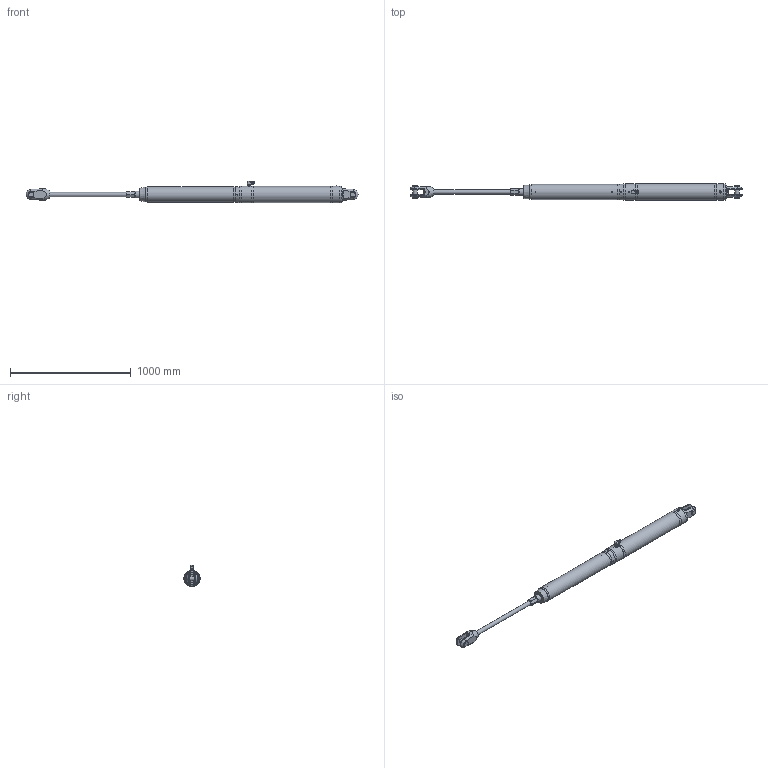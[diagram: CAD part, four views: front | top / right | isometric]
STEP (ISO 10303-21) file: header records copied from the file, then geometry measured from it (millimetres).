
FILE_DESCRIPTION(/* description */ (''),/* implementation_level */ '2;1');
FILE_NAME(/* name */ 'Q:\AA BRAND HYDRAULICS\HYDRAULICS FAMILY DIRECTORY\HYDRAULICS\CYLINDERS\MECHANICAL LOCK RAMS\ALUMINIUM - STAINLESS SINGLE ACTING (-0012 To -0150)\MSA-0091-S0625-NP-71\MSA-0091-S0625-NP-71 (Open).stp',/* time_stamp */ '2018-04-25T17:15:00+01:00',/* author */ ('Lorena'),/* organization */ (''),/* preprocessor_version */ 'ST-DEVELOPER v17',/* originating_system */ 'Autodesk Inventor 2018',/* authorisation */ '');
FILE_SCHEMA (('AUTOMOTIVE_DESIGN { 1 0 10303 214 3 1 1 }'));
Length unit declared in the file: millimetre
Products named in the file (1): MSA-0091-S0625-NP-71 (Open)
Bounding box: 2755.08 x 136.4 x 178.3 mm (x, y, z)
Volume: 24489217.5 mm3; surface area: 946515.7 mm2
Topology: 2 solids, 4 shells, 495 faces, 1298 edges, 848 vertices
Faces by surface type: plane 281, cone 123, cylinder 77, torus 6, sphere 4, bspline 4
Full cylindrical faces by diameter (mm): 4 x1, 4.2 x4, 5 x2, 7 x1, 8 x4, 9 x1, 9.9 x1, 10 x2, 11.1 x1, 18.9 x1, 19 x3, 19.11 x1, 19.9 x1, 20 x3, 20.9 x2, 22 x2, 27.8 x3, 30 x1, 34.25 x1, 34.93 x2, 43.663 x2, 55 x2, 56 x2, 59 x1, 125 x1, 133.4 x1, 136.4 x4
Entity records: 17008 total; most frequent: CARTESIAN_POINT 4416, ORIENTED_EDGE 2580, DIRECTION 2514, EDGE_CURVE 1290, AXIS2_PLACEMENT_3D 966, VERTEX_POINT 849, LINE 582, VECTOR 582
